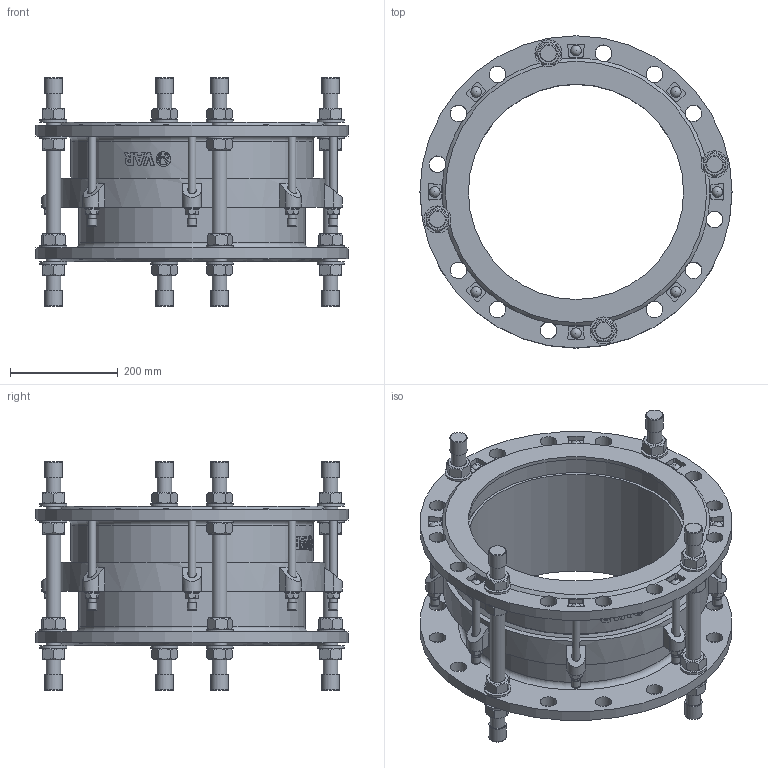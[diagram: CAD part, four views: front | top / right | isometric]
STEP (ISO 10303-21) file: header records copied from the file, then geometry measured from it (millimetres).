
FILE_DESCRIPTION(('STEP AP242'), '1');
FILE_NAME('Ìîíòàæíàÿ âñòàâêà', '', ('UNSPECIFIED'), ('UNSPECIFIED'), 'C3D Converter', 'C3D Toolkit', '');
FILE_SCHEMA(('AP242_MANAGED_MODEL_BASED_3D_ENGINEERING_MIM_LF { 1 0 10303 442 1 1 4 }'));
Length unit declared in the file: millimetre
Products named in the file (13): ШМ.М16.310
Assembly tree (80 placements, depth 2):
  (unnamed)
    (unnamed)
    (unnamed)
    (unnamed)
    (unnamed)  x16
    (unnamed)  x16
    ШМ.М16.310  x4
    (unnamed)  x8
    (unnamed)
    (unnamed)  x8
    (unnamed)  x8
    (unnamed)  x8
    (unnamed)  x8
Bounding box: 580 x 580 x 425.4 mm (x, y, z)
Volume: 13577652.5 mm3; surface area: 2389134.5 mm2
Topology: 80 solids, 80 shells, 907 faces, 2053 edges, 1305 vertices
Faces by surface type: plane 534, cylinder 218, cone 118, torus 18, extrusion 11, sphere 8
Full cylindrical faces by diameter (mm): 14 x24, 15 x8, 16 x8, 16.8 x8, 27 x28, 27.455 x1, 28 x24, 31 x32, 32.4 x8, 50 x16, 400 x2, 420 x2, 430 x2, 450 x1, 470 x1, 474 x1, 494 x1, 580 x2
Entity records: 21131 total; most frequent: CARTESIAN_POINT 10120, DIRECTION 1816, ORIENTED_EDGE 1646, EDGE_CURVE 823, AXIS2_PLACEMENT_3D 727, VERTEX_POINT 596, EDGE_LOOP 519, FACE_BOUND 389
